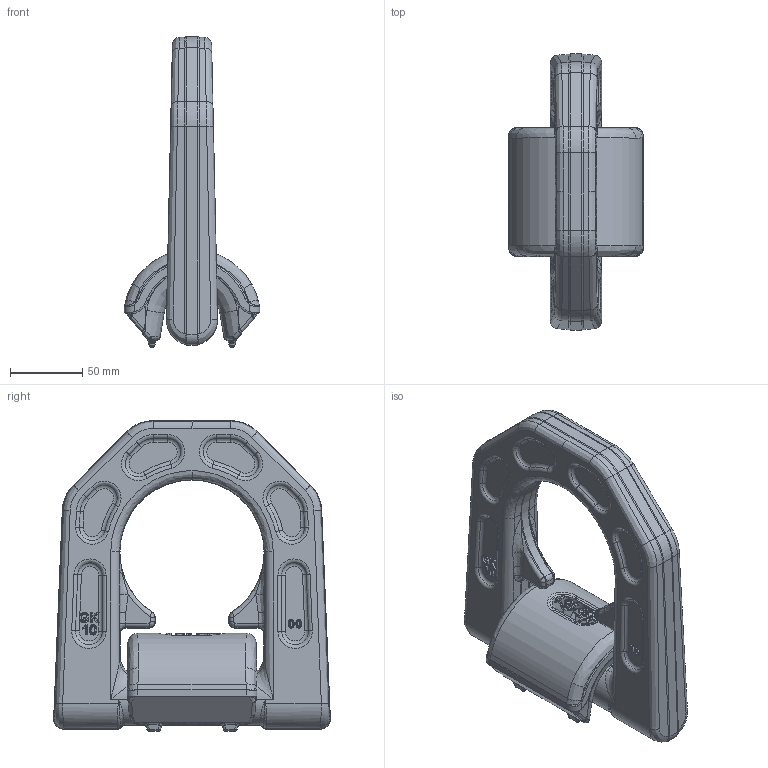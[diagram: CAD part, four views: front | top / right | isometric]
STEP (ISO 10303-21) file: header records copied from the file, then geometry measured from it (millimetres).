
FILE_DESCRIPTION((''),'2;1');
FILE_NAME('SFA-2621-0000_SFA-2622_90°','2013-12-04T16:40:22',('Luca'),(''),'CADlook_v9.0','Cimatron E 8.0','');
FILE_SCHEMA(('AUTOMOTIVE_DESIGN { 1 2 10303 214 0 1 1 1 }'));
Length unit declared in the file: millimetre
Products named in the file (2): Body0
Bounding box: 94 x 191.99 x 215.5 mm (x, y, z)
Volume: 292340.4 mm3; surface area: 111879.2 mm2
Topology: 1 solids, 4 shells, 1115 faces, 2849 edges, 1759 vertices
Faces by surface type: bspline 438, plane 258, cylinder 210, torus 108, cone 81, sphere 20
Full cylindrical faces by diameter (mm): 9.7 x1
Entity records: 86396 total; most frequent: CARTESIAN_POINT 53163, ORIENTED_EDGE 5640, DIRECTION 4260, EDGE_CURVE 2825, VERTEX_POINT 1759, AXIS2_PLACEMENT_3D 1645, EDGE_LOOP 1160, COLOUR_RGB 1118
